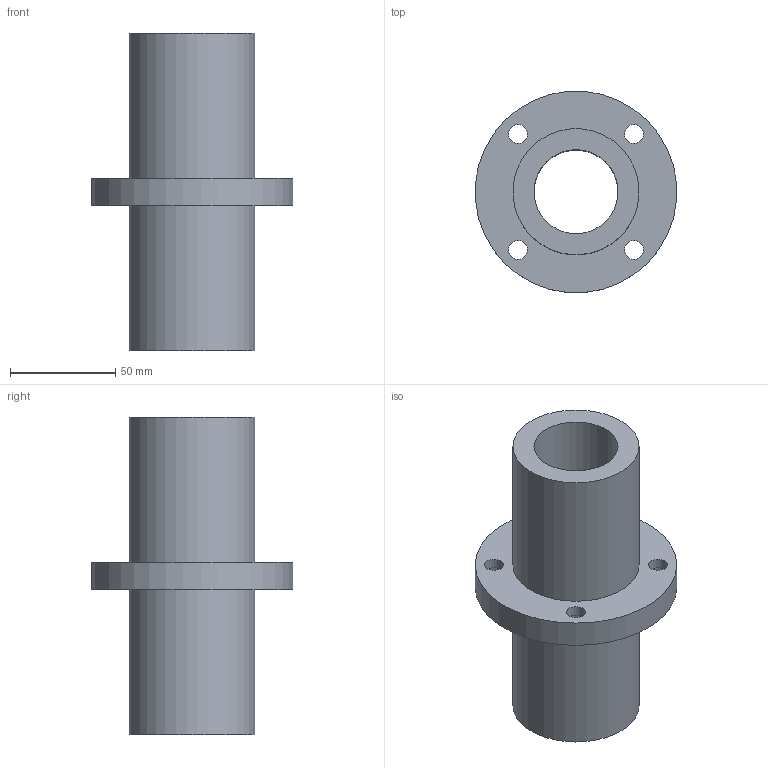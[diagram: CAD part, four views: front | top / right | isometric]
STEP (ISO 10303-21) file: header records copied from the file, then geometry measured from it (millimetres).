
FILE_DESCRIPTION(/* description */ (''),/* implementation_level */ '2;1');
FILE_NAME(/* name */ 'LMFM40LUU',/* time_stamp */ '2019-07-03T11:01:24+02:00',/* author */ ('VĂ©gh MĂˇtĂ©'),/* organization */ ('Bearing Kft'),/* preprocessor_version */ 'ST-DEVELOPER v16.7',/* originating_system */ 'DEX',/* authorisation */ $);
FILE_SCHEMA (('AUTOMOTIVE_DESIGN {1 0 10303 214 3 1 1}'));
Length unit declared in the file: millimetre
Products named in the file (1): LMFM40LUU
Bounding box: 95.63 x 95.63 x 151 mm (x, y, z)
Volume: 288285.8 mm3; surface area: 62380.9 mm2
Topology: 1 solids, 1 shells, 347 faces, 874 edges, 584 vertices
Faces by surface type: plane 276, bspline 57, cylinder 14
Full cylindrical faces by diameter (mm): 9 x4, 14 x4, 40 x1, 60 x2, 96 x1
Entity records: 13309 total; most frequent: CARTESIAN_POINT 5344, ORIENTED_EDGE 1710, DIRECTION 1351, EDGE_CURVE 855, LINE 713, VECTOR 713, VERTEX_POINT 580, EDGE_LOOP 427
